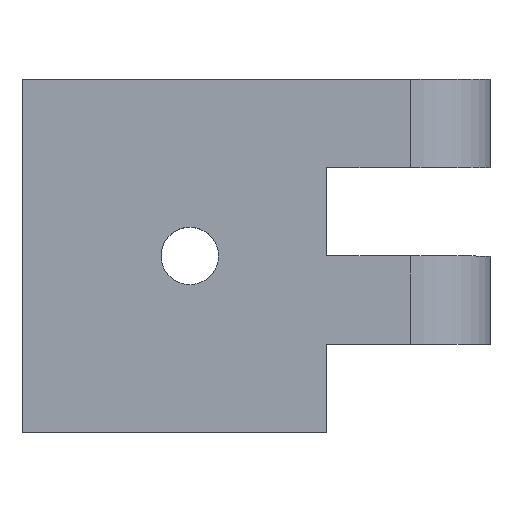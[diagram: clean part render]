
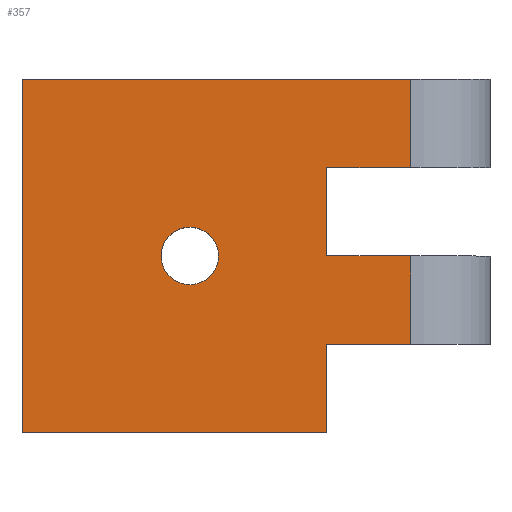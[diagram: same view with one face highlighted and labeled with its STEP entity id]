
A CAD part, top view. The second image highlights one B-rep face of the part: STEP entity #357.
In plain terms, the highlighted planar face has unit normal (0, 0, 1).
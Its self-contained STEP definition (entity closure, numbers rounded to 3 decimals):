
#13=DIRECTION('',(1.,0.,0.));
#14=VECTOR('',#13,34.5);
#15=CARTESIAN_POINT('',(-44.,-20.,0.));
#16=LINE('',#15,#14);
#21=DIRECTION('',(-1.,0.,0.));
#22=VECTOR('',#21,9.5);
#23=CARTESIAN_POINT('',(0.,10.,0.));
#24=LINE('',#23,#22);
#25=DIRECTION('',(0.,-1.,0.));
#26=VECTOR('',#25,10.);
#27=CARTESIAN_POINT('',(-9.5,10.,0.));
#28=LINE('',#27,#26);
#29=DIRECTION('',(-1.,0.,0.));
#30=VECTOR('',#29,9.5);
#31=CARTESIAN_POINT('',(0.,0.,0.));
#32=LINE('',#31,#30);
#33=DIRECTION('',(-1.,0.,0.));
#34=VECTOR('',#33,9.5);
#35=CARTESIAN_POINT('',(0.,-10.,0.));
#36=LINE('',#35,#34);
#37=DIRECTION('',(0.,1.,0.));
#38=VECTOR('',#37,10.);
#39=CARTESIAN_POINT('',(-9.5,-20.,0.));
#40=LINE('',#39,#38);
#41=DIRECTION('',(0.,1.,0.));
#42=VECTOR('',#41,40.);
#43=CARTESIAN_POINT('',(-44.,-20.,0.));
#44=LINE('',#43,#42);
#45=CARTESIAN_POINT('',(-25.,0.,0.));
#46=DIRECTION('',(0.,0.,-1.));
#47=DIRECTION('',(1.,0.,0.));
#48=AXIS2_PLACEMENT_3D('',#45,#46,#47);
#50=CARTESIAN_POINT('',(-25.,0.,0.));
#51=DIRECTION('',(0.,0.,-1.));
#52=DIRECTION('',(-1.,0.,0.));
#53=AXIS2_PLACEMENT_3D('',#50,#51,#52);
#70=DIRECTION('',(0.,1.,0.));
#71=VECTOR('',#70,10.);
#72=CARTESIAN_POINT('',(0.,10.,0.));
#73=LINE('',#72,#71);
#84=DIRECTION('',(0.,1.,0.));
#85=VECTOR('',#84,10.);
#86=CARTESIAN_POINT('',(0.,-10.,0.));
#87=LINE('',#86,#85);
#88=DIRECTION('',(1.,0.,0.));
#89=VECTOR('',#88,44.);
#90=CARTESIAN_POINT('',(-44.,20.,0.));
#91=LINE('',#90,#89);
#228=CARTESIAN_POINT('',(-44.,-20.,0.));
#230=VERTEX_POINT('',#228);
#231=CARTESIAN_POINT('',(-44.,20.,0.));
#232=CARTESIAN_POINT('',(0.,20.,0.));
#233=VERTEX_POINT('',#231);
#234=VERTEX_POINT('',#232);
#243=CARTESIAN_POINT('',(-9.5,-20.,0.));
#245=VERTEX_POINT('',#243);
#247=CARTESIAN_POINT('',(0.,10.,0.));
#248=CARTESIAN_POINT('',(-9.5,10.,0.));
#249=VERTEX_POINT('',#247);
#250=VERTEX_POINT('',#248);
#251=CARTESIAN_POINT('',(-9.5,0.,0.));
#252=VERTEX_POINT('',#251);
#253=CARTESIAN_POINT('',(0.,0.,0.));
#254=VERTEX_POINT('',#253);
#255=CARTESIAN_POINT('',(0.,-10.,0.));
#256=CARTESIAN_POINT('',(-9.5,-10.,0.));
#257=VERTEX_POINT('',#255);
#258=VERTEX_POINT('',#256);
#283=CARTESIAN_POINT('',(-21.75,0.,0.));
#284=CARTESIAN_POINT('',(-28.25,0.,0.));
#285=VERTEX_POINT('',#283);
#286=VERTEX_POINT('',#284);
#326=CARTESIAN_POINT('',(-44.,-20.,0.));
#327=DIRECTION('',(0.,0.,1.));
#328=DIRECTION('',(1.,0.,0.));
#329=AXIS2_PLACEMENT_3D('',#326,#327,#328);
#330=PLANE('',#329);
#332=ORIENTED_EDGE('',*,*,#331,.T.);
#334=ORIENTED_EDGE('',*,*,#333,.T.);
#336=ORIENTED_EDGE('',*,*,#335,.F.);
#338=ORIENTED_EDGE('',*,*,#337,.F.);
#340=ORIENTED_EDGE('',*,*,#339,.T.);
#341=ORIENTED_EDGE('',*,*,#317,.F.);
#342=ORIENTED_EDGE('',*,*,#306,.F.);
#344=ORIENTED_EDGE('',*,*,#343,.T.);
#346=ORIENTED_EDGE('',*,*,#345,.T.);
#348=ORIENTED_EDGE('',*,*,#347,.F.);
#349=EDGE_LOOP('',(#332,#334,#336,#338,#340,#341,#342,#344,#346,#348));
#350=FACE_OUTER_BOUND('',#349,.F.);
#352=ORIENTED_EDGE('',*,*,#351,.F.);
#354=ORIENTED_EDGE('',*,*,#353,.F.);
#355=EDGE_LOOP('',(#352,#354));
#356=FACE_BOUND('',#355,.F.);
#357=ADVANCED_FACE('',(#350,#356),#330,.T.);
#49=CIRCLE('',#48,3.25);
#54=CIRCLE('',#53,3.25);
#306=EDGE_CURVE('',#230,#245,#16,.T.);
#317=EDGE_CURVE('',#245,#258,#40,.T.);
#331=EDGE_CURVE('',#249,#250,#24,.T.);
#333=EDGE_CURVE('',#250,#252,#28,.T.);
#335=EDGE_CURVE('',#254,#252,#32,.T.);
#337=EDGE_CURVE('',#257,#254,#87,.T.);
#339=EDGE_CURVE('',#257,#258,#36,.T.);
#343=EDGE_CURVE('',#230,#233,#44,.T.);
#345=EDGE_CURVE('',#233,#234,#91,.T.);
#347=EDGE_CURVE('',#249,#234,#73,.T.);
#351=EDGE_CURVE('',#285,#286,#49,.T.);
#353=EDGE_CURVE('',#286,#285,#54,.T.);
